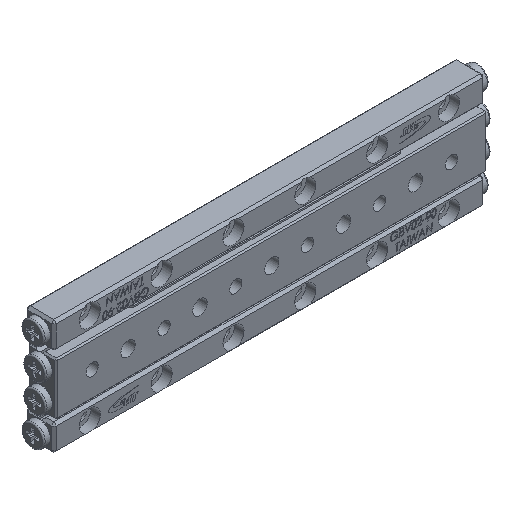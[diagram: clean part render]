
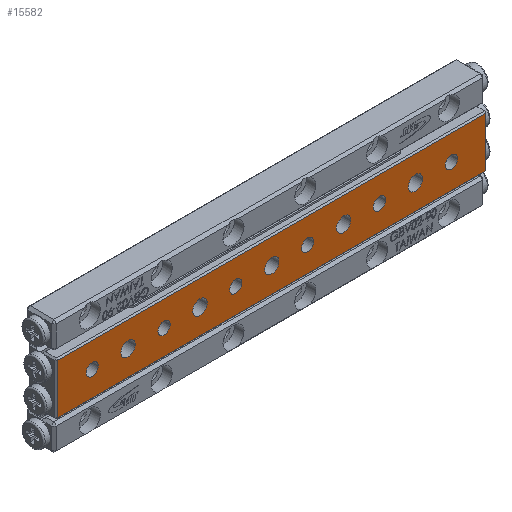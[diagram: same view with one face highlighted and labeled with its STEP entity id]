
A CAD part, isometric view. The second image highlights one B-rep face of the part: STEP entity #15582.
In plain terms, the highlighted planar face has unit normal (0, -1, 0).
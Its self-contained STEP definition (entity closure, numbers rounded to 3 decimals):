
#36 = CARTESIAN_POINT ( 'NONE',  ( -22.5, 0., 1.275 ) ) ;
#182 = VERTEX_POINT ( 'NONE', #16459 ) ;
#280 = ORIENTED_EDGE ( 'NONE', *, *, #6761, .T. ) ;
#777 = VECTOR ( 'NONE', #23039, 1000. ) ;
#1135 = CARTESIAN_POINT ( 'NONE',  ( 7.5, 0., 0. ) ) ;
#1302 = EDGE_LOOP ( 'NONE', ( #18758 ) ) ;
#1667 = AXIS2_PLACEMENT_3D ( 'NONE', #8495, #3422, #8188 ) ;
#1707 = ORIENTED_EDGE ( 'NONE', *, *, #26109, .T. ) ;
#1802 = CARTESIAN_POINT ( 'NONE',  ( 30., 0., 1.5 ) ) ;
#1879 = VERTEX_POINT ( 'NONE', #30290 ) ;
#1935 = VERTEX_POINT ( 'NONE', #4485 ) ;
#1990 = CARTESIAN_POINT ( 'NONE',  ( -45., 0., 5.2 ) ) ;
#2062 = CIRCLE ( 'NONE', #8938, 1.5 ) ;
#2316 = CARTESIAN_POINT ( 'NONE',  ( 44.7, 0., -5.2 ) ) ;
#2368 = DIRECTION ( 'NONE',  ( 0., 1., 0. ) ) ;
#2489 = CARTESIAN_POINT ( 'NONE',  ( 7.5, 0., 1.275 ) ) ;
#2495 = EDGE_CURVE ( 'NONE', #6205, #6205, #2588, .T. ) ;
#2571 = DIRECTION ( 'NONE',  ( 0., 1., 0. ) ) ;
#2588 = CIRCLE ( 'NONE', #20742, 1.5 ) ;
#2645 = EDGE_CURVE ( 'NONE', #25518, #25518, #17808, .T. ) ;
#2664 = ORIENTED_EDGE ( 'NONE', *, *, #26069, .T. ) ;
#2672 = DIRECTION ( 'NONE',  ( 0., 0., 1. ) ) ;
#3379 = AXIS2_PLACEMENT_3D ( 'NONE', #19095, #16783, #5111 ) ;
#3422 = DIRECTION ( 'NONE',  ( 0., 1., 0. ) ) ;
#3559 = VERTEX_POINT ( 'NONE', #27919 ) ;
#3884 = CIRCLE ( 'NONE', #17611, 1.275 ) ;
#4485 = CARTESIAN_POINT ( 'NONE',  ( -44.7, 0., -5.2 ) ) ;
#4636 = VERTEX_POINT ( 'NONE', #14019 ) ;
#4657 = ORIENTED_EDGE ( 'NONE', *, *, #2495, .T. ) ;
#4789 = CARTESIAN_POINT ( 'NONE',  ( 0., 0., 1.5 ) ) ;
#5031 = FACE_BOUND ( 'NONE', #9859, .T. ) ;
#5064 = EDGE_LOOP ( 'NONE', ( #280 ) ) ;
#5111 = DIRECTION ( 'NONE',  ( 0., 0., 1. ) ) ;
#5460 = DIRECTION ( 'NONE',  ( 0., 0., 1. ) ) ;
#5556 = DIRECTION ( 'NONE',  ( 0., 0., 1. ) ) ;
#5660 = ORIENTED_EDGE ( 'NONE', *, *, #21585, .T. ) ;
#5671 = VERTEX_POINT ( 'NONE', #12172 ) ;
#6130 = VERTEX_POINT ( 'NONE', #1802 ) ;
#6205 = VERTEX_POINT ( 'NONE', #15563 ) ;
#6286 = CARTESIAN_POINT ( 'NONE',  ( -44.7, 0., 5.2 ) ) ;
#6442 = LINE ( 'NONE', #9778, #29184 ) ;
#6733 = FACE_BOUND ( 'NONE', #17341, .T. ) ;
#6761 = EDGE_CURVE ( 'NONE', #4636, #4636, #29416, .T. ) ;
#6802 = VERTEX_POINT ( 'NONE', #36 ) ;
#6889 = FACE_BOUND ( 'NONE', #20598, .T. ) ;
#7035 = FACE_BOUND ( 'NONE', #5064, .T. ) ;
#7079 = EDGE_LOOP ( 'NONE', ( #9918 ) ) ;
#7524 = CARTESIAN_POINT ( 'NONE',  ( -37.5, 0., 0. ) ) ;
#7605 = EDGE_CURVE ( 'NONE', #6802, #6802, #25980, .T. ) ;
#7768 = DIRECTION ( 'NONE',  ( 0., 1., 0. ) ) ;
#7813 = ORIENTED_EDGE ( 'NONE', *, *, #9978, .T. ) ;
#8104 = VECTOR ( 'NONE', #24705, 1000. ) ;
#8188 = DIRECTION ( 'NONE',  ( 0., 0., 1. ) ) ;
#8460 = ORIENTED_EDGE ( 'NONE', *, *, #14918, .T. ) ;
#8495 = CARTESIAN_POINT ( 'NONE',  ( -30., 0., 0. ) ) ;
#8720 = EDGE_LOOP ( 'NONE', ( #16813 ) ) ;
#8938 = AXIS2_PLACEMENT_3D ( 'NONE', #28901, #28751, #5556 ) ;
#8966 = EDGE_CURVE ( 'NONE', #1935, #26523, #11768, .T. ) ;
#9045 = FACE_BOUND ( 'NONE', #24714, .T. ) ;
#9502 = FACE_BOUND ( 'NONE', #28919, .T. ) ;
#9778 = CARTESIAN_POINT ( 'NONE',  ( 44.7, 0., 5.5 ) ) ;
#9859 = EDGE_LOOP ( 'NONE', ( #24676 ) ) ;
#9918 = ORIENTED_EDGE ( 'NONE', *, *, #10423, .T. ) ;
#9973 = AXIS2_PLACEMENT_3D ( 'NONE', #1135, #14819, #24178 ) ;
#9978 = EDGE_CURVE ( 'NONE', #22929, #22929, #24449, .T. ) ;
#10073 = CARTESIAN_POINT ( 'NONE',  ( 30., 0., 0. ) ) ;
#10160 = EDGE_CURVE ( 'NONE', #1879, #1879, #26444, .T. ) ;
#10423 = EDGE_CURVE ( 'NONE', #182, #182, #3884, .T. ) ;
#10808 = AXIS2_PLACEMENT_3D ( 'NONE', #11414, #15722, #27082 ) ;
#11270 = AXIS2_PLACEMENT_3D ( 'NONE', #30322, #2368, #2672 ) ;
#11277 = CARTESIAN_POINT ( 'NONE',  ( 0., 0., 0. ) ) ;
#11414 = CARTESIAN_POINT ( 'NONE',  ( -22.5, 0., 0. ) ) ;
#11613 = DIRECTION ( 'NONE',  ( 1., 0., 0. ) ) ;
#11768 = LINE ( 'NONE', #23417, #28833 ) ;
#11809 = PLANE ( 'NONE',  #19262 ) ;
#11931 = ORIENTED_EDGE ( 'NONE', *, *, #7605, .T. ) ;
#11982 = DIRECTION ( 'NONE',  ( 0., 1., 0. ) ) ;
#12172 = CARTESIAN_POINT ( 'NONE',  ( -30., 0., 1.5 ) ) ;
#12456 = VERTEX_POINT ( 'NONE', #6286 ) ;
#13191 = ORIENTED_EDGE ( 'NONE', *, *, #25881, .T. ) ;
#13493 = VERTEX_POINT ( 'NONE', #27460 ) ;
#14019 = CARTESIAN_POINT ( 'NONE',  ( 22.5, 0., 1.275 ) ) ;
#14033 = DIRECTION ( 'NONE',  ( 0., 1., 0. ) ) ;
#14151 = AXIS2_PLACEMENT_3D ( 'NONE', #11277, #14033, #15877 ) ;
#14819 = DIRECTION ( 'NONE',  ( 0., 1., 0. ) ) ;
#14903 = CARTESIAN_POINT ( 'NONE',  ( -44.7, 0., 5.5 ) ) ;
#14918 = EDGE_CURVE ( 'NONE', #24688, #24688, #2062, .T. ) ;
#14962 = CIRCLE ( 'NONE', #15943, 1.275 ) ;
#15399 = CIRCLE ( 'NONE', #1667, 1.5 ) ;
#15563 = CARTESIAN_POINT ( 'NONE',  ( -15., 0., 1.5 ) ) ;
#15582 = ADVANCED_FACE ( 'NONE', ( #30077, #6889, #6733, #18560, #9502, #5031, #16097, #7035, #28372, #9045, #16395, #25754 ), #11809, .F. ) ;
#15722 = DIRECTION ( 'NONE',  ( 0., 1., 0. ) ) ;
#15877 = DIRECTION ( 'NONE',  ( 0., 0., 1. ) ) ;
#15943 = AXIS2_PLACEMENT_3D ( 'NONE', #28033, #27476, #29484 ) ;
#16097 = FACE_BOUND ( 'NONE', #8720, .T. ) ;
#16395 = FACE_BOUND ( 'NONE', #26535, .T. ) ;
#16459 = CARTESIAN_POINT ( 'NONE',  ( -37.5, 0., 1.275 ) ) ;
#16783 = DIRECTION ( 'NONE',  ( 0., 1., 0. ) ) ;
#16813 = ORIENTED_EDGE ( 'NONE', *, *, #10160, .T. ) ;
#17341 = EDGE_LOOP ( 'NONE', ( #8460 ) ) ;
#17352 = LINE ( 'NONE', #14903, #8104 ) ;
#17611 = AXIS2_PLACEMENT_3D ( 'NONE', #7524, #11982, #21344 ) ;
#17808 = CIRCLE ( 'NONE', #9973, 1.275 ) ;
#17911 = DIRECTION ( 'NONE',  ( 0., 0., 1. ) ) ;
#17957 = EDGE_CURVE ( 'NONE', #5671, #5671, #15399, .T. ) ;
#18408 = CARTESIAN_POINT ( 'NONE',  ( -45., 0., 5.5 ) ) ;
#18560 = FACE_BOUND ( 'NONE', #28761, .T. ) ;
#18758 = ORIENTED_EDGE ( 'NONE', *, *, #2645, .T. ) ;
#19095 = CARTESIAN_POINT ( 'NONE',  ( 37.5, 0., 0. ) ) ;
#19262 = AXIS2_PLACEMENT_3D ( 'NONE', #18408, #2571, #30230 ) ;
#20347 = AXIS2_PLACEMENT_3D ( 'NONE', #10073, #7768, #5460 ) ;
#20598 = EDGE_LOOP ( 'NONE', ( #1707 ) ) ;
#20742 = AXIS2_PLACEMENT_3D ( 'NONE', #29733, #25110, #17911 ) ;
#21344 = DIRECTION ( 'NONE',  ( 0., 0., 1. ) ) ;
#21436 = DIRECTION ( 'NONE',  ( 0., 0., 1. ) ) ;
#21585 = EDGE_CURVE ( 'NONE', #3559, #12456, #27339, .T. ) ;
#22929 = VERTEX_POINT ( 'NONE', #4789 ) ;
#23039 = DIRECTION ( 'NONE',  ( -1., 0., 0. ) ) ;
#23417 = CARTESIAN_POINT ( 'NONE',  ( -45., 0., -5.2 ) ) ;
#24178 = DIRECTION ( 'NONE',  ( 0., 0., 1. ) ) ;
#24449 = CIRCLE ( 'NONE', #14151, 1.5 ) ;
#24599 = EDGE_LOOP ( 'NONE', ( #13191, #28234, #29367, #5660 ) ) ;
#24676 = ORIENTED_EDGE ( 'NONE', *, *, #17957, .T. ) ;
#24688 = VERTEX_POINT ( 'NONE', #29471 ) ;
#24705 = DIRECTION ( 'NONE',  ( 0., 0., -1. ) ) ;
#24714 = EDGE_LOOP ( 'NONE', ( #2664 ) ) ;
#24768 = CIRCLE ( 'NONE', #20347, 1.5 ) ;
#25110 = DIRECTION ( 'NONE',  ( 0., 1., 0. ) ) ;
#25518 = VERTEX_POINT ( 'NONE', #2489 ) ;
#25754 = FACE_BOUND ( 'NONE', #7079, .T. ) ;
#25881 = EDGE_CURVE ( 'NONE', #12456, #1935, #17352, .T. ) ;
#25980 = CIRCLE ( 'NONE', #10808, 1.275 ) ;
#26069 = EDGE_CURVE ( 'NONE', #13493, #13493, #14962, .T. ) ;
#26088 = EDGE_CURVE ( 'NONE', #26523, #3559, #6442, .T. ) ;
#26109 = EDGE_CURVE ( 'NONE', #6130, #6130, #24768, .T. ) ;
#26444 = CIRCLE ( 'NONE', #3379, 1.275 ) ;
#26523 = VERTEX_POINT ( 'NONE', #2316 ) ;
#26535 = EDGE_LOOP ( 'NONE', ( #11931 ) ) ;
#27082 = DIRECTION ( 'NONE',  ( 0., 0., 1. ) ) ;
#27339 = LINE ( 'NONE', #1990, #777 ) ;
#27460 = CARTESIAN_POINT ( 'NONE',  ( -7.5, 0., 1.275 ) ) ;
#27476 = DIRECTION ( 'NONE',  ( 0., 1., 0. ) ) ;
#27919 = CARTESIAN_POINT ( 'NONE',  ( 44.7, 0., 5.2 ) ) ;
#28033 = CARTESIAN_POINT ( 'NONE',  ( -7.5, 0., 0. ) ) ;
#28234 = ORIENTED_EDGE ( 'NONE', *, *, #8966, .T. ) ;
#28372 = FACE_BOUND ( 'NONE', #1302, .T. ) ;
#28751 = DIRECTION ( 'NONE',  ( 0., 1., 0. ) ) ;
#28761 = EDGE_LOOP ( 'NONE', ( #7813 ) ) ;
#28833 = VECTOR ( 'NONE', #11613, 1000. ) ;
#28901 = CARTESIAN_POINT ( 'NONE',  ( 15., 0., 0. ) ) ;
#28919 = EDGE_LOOP ( 'NONE', ( #4657 ) ) ;
#29184 = VECTOR ( 'NONE', #21436, 1000. ) ;
#29367 = ORIENTED_EDGE ( 'NONE', *, *, #26088, .T. ) ;
#29416 = CIRCLE ( 'NONE', #11270, 1.275 ) ;
#29471 = CARTESIAN_POINT ( 'NONE',  ( 15., 0., 1.5 ) ) ;
#29484 = DIRECTION ( 'NONE',  ( 0., 0., 1. ) ) ;
#29733 = CARTESIAN_POINT ( 'NONE',  ( -15., 0., 0. ) ) ;
#30077 = FACE_OUTER_BOUND ( 'NONE', #24599, .T. ) ;
#30230 = DIRECTION ( 'NONE',  ( 0., 0., 1. ) ) ;
#30290 = CARTESIAN_POINT ( 'NONE',  ( 37.5, 0., 1.275 ) ) ;
#30322 = CARTESIAN_POINT ( 'NONE',  ( 22.5, 0., 0. ) ) ;
